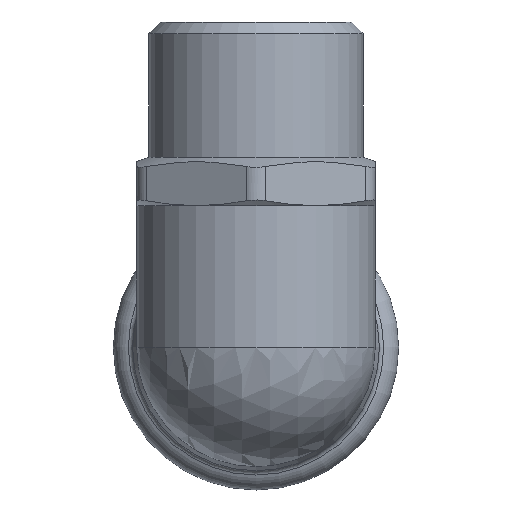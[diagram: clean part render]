
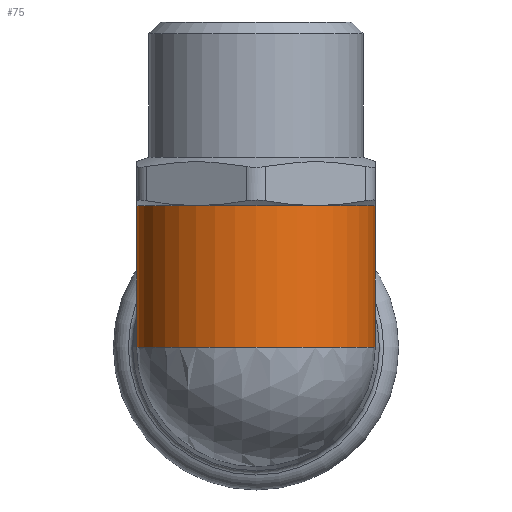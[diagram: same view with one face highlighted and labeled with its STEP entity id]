
A CAD part, front view. The second image highlights one B-rep face of the part: STEP entity #75.
In plain terms, the highlighted cylindrical face has radius 18.5 mm (diameter 37 mm), a full revolution.
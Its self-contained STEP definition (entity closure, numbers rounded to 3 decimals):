
#75=ADVANCED_FACE('',(#247,#249),#251,.T.);
#247=FACE_BOUND('',#248,.T.);
#248=EDGE_LOOP('',(#449,#450,#451,#452,#453,#454));
#249=FACE_BOUND('',#250,.T.);
#250=EDGE_LOOP('',(#455,#456));
#251=CYLINDRICAL_SURFACE('',#252,18.5);
#252=AXIS2_PLACEMENT_3D('',#253,#254,#255);
#253=CARTESIAN_POINT('',(0.,-58.5,0.));
#254=DIRECTION('',(0.,0.,1.));
#255=DIRECTION('',(-1.,0.,0.));
#449=ORIENTED_EDGE('',*,*,#530,.T.);
#450=ORIENTED_EDGE('',*,*,#529,.T.);
#451=ORIENTED_EDGE('',*,*,#528,.T.);
#452=ORIENTED_EDGE('',*,*,#527,.T.);
#453=ORIENTED_EDGE('',*,*,#532,.T.);
#454=ORIENTED_EDGE('',*,*,#531,.T.);
#455=ORIENTED_EDGE('',*,*,#533,.T.);
#456=ORIENTED_EDGE('',*,*,#534,.F.);
#527=EDGE_CURVE('',#580,#620,#626,.F.);
#528=EDGE_CURVE('',#588,#580,#627,.F.);
#529=EDGE_CURVE('',#596,#588,#628,.F.);
#530=EDGE_CURVE('',#604,#596,#629,.F.);
#531=EDGE_CURVE('',#612,#604,#630,.F.);
#532=EDGE_CURVE('',#620,#612,#631,.F.);
#533=EDGE_CURVE('',#632,#633,#634,.F.);
#534=EDGE_CURVE('',#632,#633,#635,.F.);
#580=VERTEX_POINT('',#1233);
#588=VERTEX_POINT('',#1336);
#596=VERTEX_POINT('',#1427);
#604=VERTEX_POINT('',#1518);
#612=VERTEX_POINT('',#1621);
#620=VERTEX_POINT('',#1712);
#626=CIRCLE('',#1799,18.5);
#627=CIRCLE('',#1803,18.5);
#628=CIRCLE('',#1807,18.5);
#629=CIRCLE('',#1811,18.5);
#630=CIRCLE('',#1815,18.5);
#631=CIRCLE('',#1819,18.5);
#632=VERTEX_POINT('',#1823);
#633=VERTEX_POINT('',#1824);
#634=(BOUNDED_CURVE()B_SPLINE_CURVE(3,
(#1825,#1826,#1827,#1828),
.UNSPECIFIED.,.F.,.F.)B_SPLINE_CURVE_WITH_KNOTS((4,4),
(0.,1.),
.UNSPECIFIED.)CURVE()GEOMETRIC_REPRESENTATION_ITEM()RATIONAL_B_SPLINE_CURVE((1.,
0.333,0.333,1.))REPRESENTATION_ITEM(''));
#635=CIRCLE('',#1829,18.5);
#1233=CARTESIAN_POINT('',(-18.5,-58.5,22.));
#1336=CARTESIAN_POINT('',(-9.25,-74.521,22.));
#1427=CARTESIAN_POINT('',(9.25,-74.521,22.));
#1518=CARTESIAN_POINT('',(18.5,-58.5,22.));
#1621=CARTESIAN_POINT('',(9.25,-42.479,22.));
#1712=CARTESIAN_POINT('',(-9.25,-42.479,22.));
#1799=AXIS2_PLACEMENT_3D('',#1800,#1801,#1802);
#1800=CARTESIAN_POINT('',(0.,-58.5,22.));
#1801=DIRECTION('',(0.,0.,1.));
#1802=DIRECTION('',(-0.5,0.866,0.));
#1803=AXIS2_PLACEMENT_3D('',#1804,#1805,#1806);
#1804=CARTESIAN_POINT('',(0.,-58.5,22.));
#1805=DIRECTION('',(0.,0.,1.));
#1806=DIRECTION('',(-1.,0.,0.));
#1807=AXIS2_PLACEMENT_3D('',#1808,#1809,#1810);
#1808=CARTESIAN_POINT('',(0.,-58.5,22.));
#1809=DIRECTION('',(0.,0.,1.));
#1810=DIRECTION('',(-0.5,-0.866,0.));
#1811=AXIS2_PLACEMENT_3D('',#1812,#1813,#1814);
#1812=CARTESIAN_POINT('',(0.,-58.5,22.));
#1813=DIRECTION('',(0.,0.,1.));
#1814=DIRECTION('',(0.5,-0.866,0.));
#1815=AXIS2_PLACEMENT_3D('',#1816,#1817,#1818);
#1816=CARTESIAN_POINT('',(0.,-58.5,22.));
#1817=DIRECTION('',(0.,0.,1.));
#1818=DIRECTION('',(1.,0.,0.));
#1819=AXIS2_PLACEMENT_3D('',#1820,#1821,#1822);
#1820=CARTESIAN_POINT('',(0.,-58.5,22.));
#1821=DIRECTION('',(0.,0.,1.));
#1822=DIRECTION('',(0.5,0.866,0.));
#1823=CARTESIAN_POINT('',(18.5,-58.5,0.));
#1824=CARTESIAN_POINT('',(-18.5,-58.5,0.));
#1825=CARTESIAN_POINT('',(-18.5,-58.5,0.));
#1826=CARTESIAN_POINT('',(-18.5,-21.5,37.));
#1827=CARTESIAN_POINT('',(18.5,-21.5,37.));
#1828=CARTESIAN_POINT('',(18.5,-58.5,0.));
#1829=AXIS2_PLACEMENT_3D('',#1830,#1831,#1832);
#1830=CARTESIAN_POINT('',(0.,-58.5,0.));
#1831=DIRECTION('',(0.,0.,1.));
#1832=DIRECTION('',(-1.,0.,0.));
